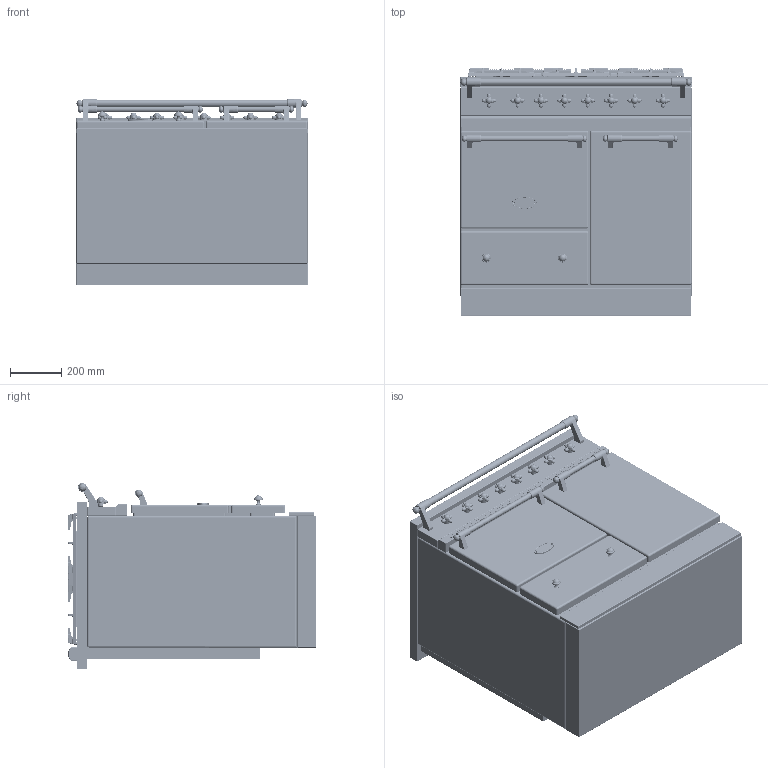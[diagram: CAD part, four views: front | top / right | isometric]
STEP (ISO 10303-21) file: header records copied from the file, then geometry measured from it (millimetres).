
FILE_DESCRIPTION((''),'2;1');
FILE_NAME('LG962D_ASM','2021-12-01T16:37:13',('j.cheno'),(''),'CREO PARAMETRIC BY PTC INC, 2017260','CREO PARAMETRIC BY PTC INC, 2017260','');
FILE_SCHEMA(('AP203_CONFIGURATION_CONTROLLED_3D_DESIGN_OF_MECHANICAL_PARTS_AND_ASSEMBLIES_MIM_LF { 1 0 10303 403 2 1 2 }'));
Products named in the file (25): BASE_EXPORT_BEAUNE; 65650003; 65650004; 6531940; 6531941; 6538399; 1931942; 65080022_AF0; 6531942_ASM; 6531943; 65049009; 65650001; BASE_EXPORT_BEAUNE_ASM; TABLE_900_CLASSIQUE; 3KW; 1_5KW; 4KW; 6537023; 65149005; 90000565_ASM; 6537024; 90000487_ASM; CHEMINEE_2020_LG371_EXPORT_STEP; TABLE_900_CLASSIQUE_ASM; LG962D_ASM
Assembly tree (46 placements, depth 4):
  LG962D_ASM
    BASE_EXPORT_BEAUNE_ASM
      BASE_EXPORT_BEAUNE
      65650003
      65650004
      6531940  x2
      6531941  x2
      6531942_ASM  x8
        6538399
        1931942
        65080022_AF0
      6531943  x2
      65049009
      65650001
    TABLE_900_CLASSIQUE_ASM
      TABLE_900_CLASSIQUE
      3KW  x3
      1_5KW  x2
      4KW
      90000565_ASM
        6537023
        65149005  x4
      90000487_ASM  x2
        6537024
        65149005
      CHEMINEE_2020_LG371_EXPORT_STEP  x2
Bounding box: 900 x 965 x 724 mm (x, y, z)
Volume: 479410915.9 mm3; surface area: 8042752 mm2
Topology: 66 solids, 74 shells, 7461 faces, 19261 edges, 11831 vertices
Faces by surface type: plane 3059, cylinder 2097, bspline 1138, cone 385, extrusion 286, torus 262, sphere 222, revolution 12
Entity records: 153429 total; most frequent: CARTESIAN_POINT 51570, ORIENTED_EDGE 17170, DIRECTION 14828, EDGE_CURVE 8595, PRESENTATION_STYLE_ASSIGNMENT 5253, VERTEX_POINT 5250, STYLED_ITEM 5230, CURVE_STYLE 5082
